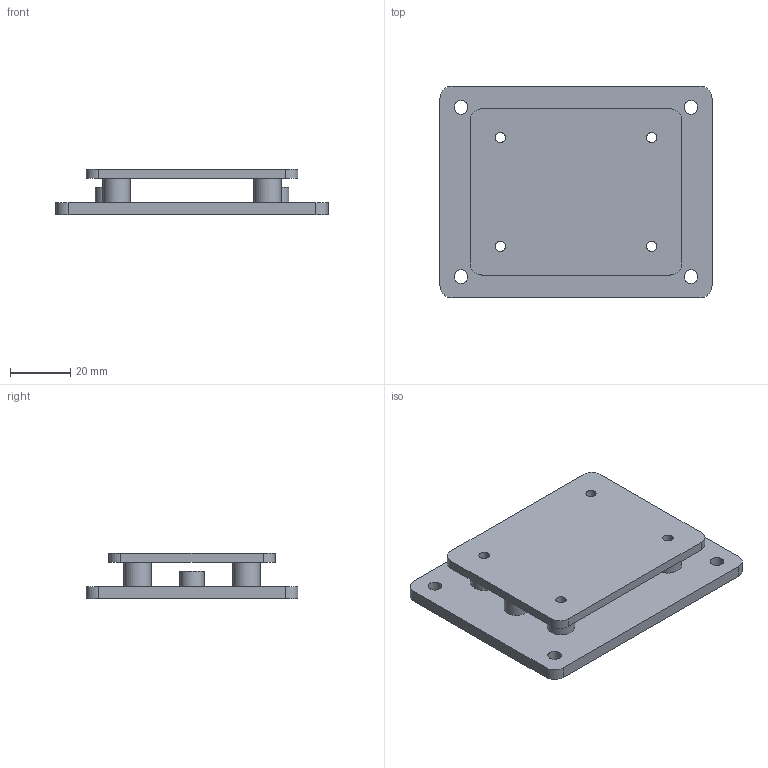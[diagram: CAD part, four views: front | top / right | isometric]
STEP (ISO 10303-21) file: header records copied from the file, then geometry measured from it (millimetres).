
FILE_DESCRIPTION(('Open CASCADE Model'),'2;1');
FILE_NAME('Open CASCADE Shape Model','2026-10-21T22:40:07',('Author'),( 'Open CASCADE'),'Open CASCADE STEP processor 7.8','Open CASCADE 7.8' ,'Unknown');
FILE_SCHEMA(('AUTOMOTIVE_DESIGN { 1 0 10303 214 1 1 1 1 }'));
Length unit declared in the file: millimetre
Products named in the file (9): Payload_mount_unloaded_concept; Base_plate; Moving_plate; Generic_isolator_1; Generic_isolator_2; Generic_isolator_3; Generic_isolator_4; Lower_stop_1; Lower_stop_2
Assembly tree (8 placements, depth 2):
  Payload_mount_unloaded_concept
    Base_plate
    Moving_plate
    Generic_isolator_1
    Generic_isolator_2
    Generic_isolator_3
    Generic_isolator_4
    Lower_stop_1
    Lower_stop_2
Bounding box: 90 x 70 x 15 mm (x, y, z)
Volume: 38393 mm3; surface area: 24615 mm2
Topology: 8 solids, 8 shells, 54 faces, 114 edges, 76 vertices
Faces by surface type: cylinder 30, plane 24
Full cylindrical faces by diameter (mm): 3.4 x12, 4.5 x4, 8 x2, 9 x4
Entity records: 3328 total; most frequent: CARTESIAN_POINT 673, DIRECTION 496, ORIENTED_EDGE 228, PCURVE 228, DEFINITIONAL_REPRESENTATION 228, LINE 222, VECTOR 222, AXIS2_PLACEMENT_3D 123
